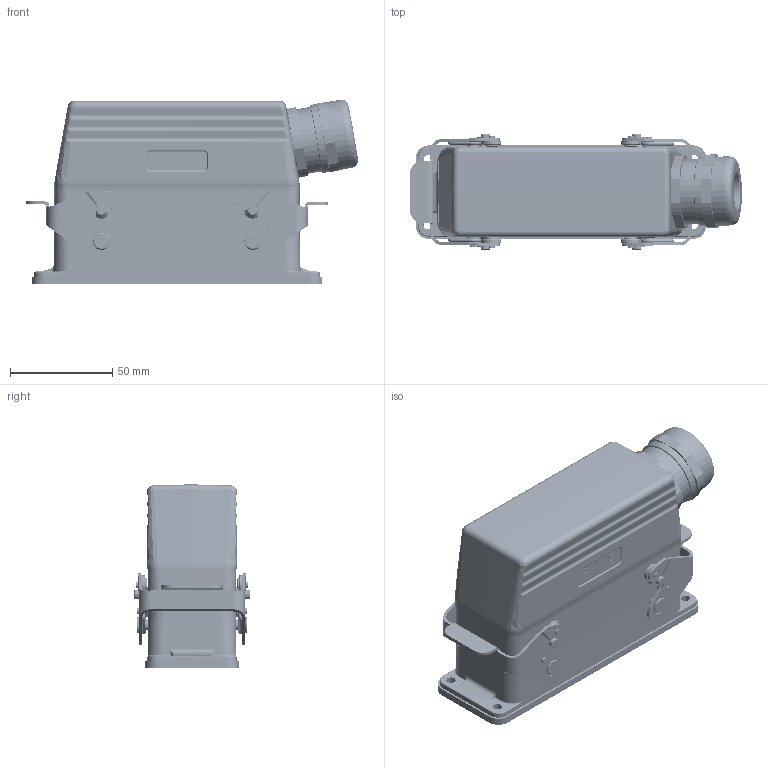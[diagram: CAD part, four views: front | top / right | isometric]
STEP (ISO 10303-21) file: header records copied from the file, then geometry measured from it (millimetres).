
FILE_DESCRIPTION (( 'STEP AP214' ), '1' );
FILE_NAME ('09024101125M HE、24针、开孔底座、侧出M25套件、配塑料接头.STEP', '2024-04-30T03:17:57', ( 'L' ), ( '' ), 'SwSTEP 2.0', 'SolidWorks 2019', '' );
FILE_SCHEMA (( 'AUTOMOTIVE_DESIGN' ));
Length unit declared in the file: millimetre
Products named in the file (6): HE-024-M.stp; H24B-TS-M25.step; 09024101125M HE、24针、开孔底座、侧出M25套件、配塑料接头; H24B-AG.step; HE-024-F.stp; FAS-25-M.step
Assembly tree (5 placements, depth 2):
  09024101125M HE、24针、开孔底座、侧出M25套件、配塑料接头
    H24B-AG.step
    HE-024-M.stp
    HE-024-F.stp
    H24B-TS-M25.step
    FAS-25-M.step
Bounding box: 162.37 x 56.4 x 90.29 mm (x, y, z)
Volume: 269571.9 mm3; surface area: 164612.9 mm2
Topology: 5 solids, 13 shells, 7512 faces, 19818 edges, 12395 vertices
Faces by surface type: plane 3416, cylinder 1734, bspline 1530, cone 482, torus 274, sphere 76
Entity records: 323023 total; most frequent: CARTESIAN_POINT 122907, ORIENTED_EDGE 39316, DIRECTION 32091, EDGE_CURVE 19658, VERTEX_POINT 12343, VECTOR 10899, LINE 10899, AXIS2_PLACEMENT_3D 10596
